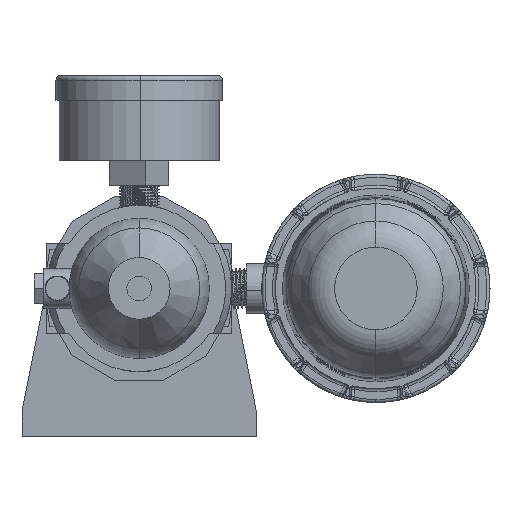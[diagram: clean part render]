
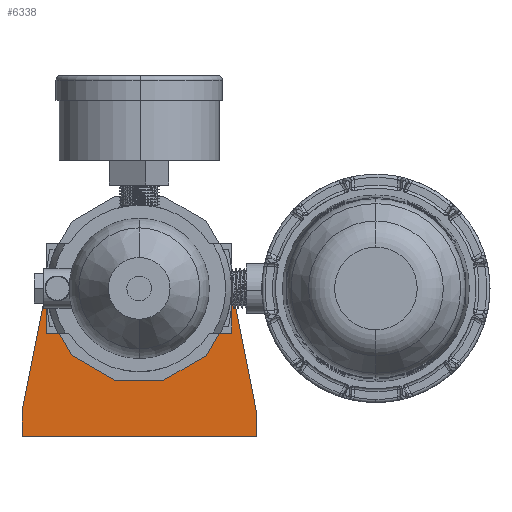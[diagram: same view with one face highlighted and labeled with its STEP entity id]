
A CAD part, front view. The second image highlights one B-rep face of the part: STEP entity #6338.
In plain terms, the highlighted planar face has unit normal (0, -1, 0).
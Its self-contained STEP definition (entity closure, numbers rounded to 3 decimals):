
#630 = LINE ( 'NONE', #55711, #48479 ) ;
#868 = VERTEX_POINT ( 'NONE', #51446 ) ;
#1215 = DIRECTION ( 'NONE',  ( 0.194, 0., -0.981 ) ) ;
#2510 = ORIENTED_EDGE ( 'NONE', *, *, #56997, .F. ) ;
#2633 = ORIENTED_EDGE ( 'NONE', *, *, #5367, .F. ) ;
#4028 = VECTOR ( 'NONE', #1215, 1000. ) ;
#4329 = ORIENTED_EDGE ( 'NONE', *, *, #29417, .T. ) ;
#4472 = CIRCLE ( 'NONE', #45150, 24. ) ;
#5367 = EDGE_CURVE ( 'NONE', #24359, #20689, #13827, .T. ) ;
#6221 = CARTESIAN_POINT ( 'NONE',  ( -38., 0., -40. ) ) ;
#6338 = ADVANCED_FACE ( 'NONE', ( #6813, #14398 ), #15729, .F. ) ;
#6813 = FACE_BOUND ( 'NONE', #26232, .T. ) ;
#6897 = CARTESIAN_POINT ( 'NONE',  ( 0., 0., 0. ) ) ;
#9942 = AXIS2_PLACEMENT_3D ( 'NONE', #51609, #55897, #11652 ) ;
#10686 = VECTOR ( 'NONE', #15971, 1000. ) ;
#11652 = DIRECTION ( 'NONE',  ( 0., 0., 1. ) ) ;
#13827 = LINE ( 'NONE', #48228, #47065 ) ;
#14398 = FACE_OUTER_BOUND ( 'NONE', #38464, .T. ) ;
#15611 = EDGE_CURVE ( 'NONE', #55009, #37462, #30935, .T. ) ;
#15729 = PLANE ( 'NONE',  #9942 ) ;
#15740 = AXIS2_PLACEMENT_3D ( 'NONE', #49515, #40570, #19031 ) ;
#15971 = DIRECTION ( 'NONE',  ( 0., 0., -1. ) ) ;
#19031 = DIRECTION ( 'NONE',  ( 0., 0., 1. ) ) ;
#19550 = CARTESIAN_POINT ( 'NONE',  ( 38., 0., -48. ) ) ;
#20282 = CARTESIAN_POINT ( 'NONE',  ( -38., 0., -48. ) ) ;
#20689 = VERTEX_POINT ( 'NONE', #30739 ) ;
#20895 = EDGE_CURVE ( 'NONE', #20689, #53950, #44413, .T. ) ;
#23505 = DIRECTION ( 'NONE',  ( 0., 0., 1. ) ) ;
#23872 = DIRECTION ( 'NONE',  ( 0., 1., 0. ) ) ;
#24359 = VERTEX_POINT ( 'NONE', #6221 ) ;
#26232 = EDGE_LOOP ( 'NONE', ( #35538, #4329 ) ) ;
#26799 = CARTESIAN_POINT ( 'NONE',  ( 0., 0., 24. ) ) ;
#28002 = CARTESIAN_POINT ( 'NONE',  ( 0., 0., 0. ) ) ;
#28462 = CIRCLE ( 'NONE', #15740, 24. ) ;
#29141 = CARTESIAN_POINT ( 'NONE',  ( 38., 0., -48. ) ) ;
#29417 = EDGE_CURVE ( 'NONE', #868, #36528, #4472, .T. ) ;
#30739 = CARTESIAN_POINT ( 'NONE',  ( -28.937, 0., 5.734 ) ) ;
#30935 = LINE ( 'NONE', #51347, #41350 ) ;
#34437 = DIRECTION ( 'NONE',  ( -1., 0., 0. ) ) ;
#35050 = EDGE_CURVE ( 'NONE', #53950, #47494, #47688, .T. ) ;
#35538 = ORIENTED_EDGE ( 'NONE', *, *, #41844, .T. ) ;
#36528 = VERTEX_POINT ( 'NONE', #26799 ) ;
#37462 = VERTEX_POINT ( 'NONE', #20282 ) ;
#37850 = DIRECTION ( 'NONE',  ( 0., 0., 1. ) ) ;
#38230 = EDGE_CURVE ( 'NONE', #47494, #55009, #38413, .T. ) ;
#38242 = ORIENTED_EDGE ( 'NONE', *, *, #35050, .F. ) ;
#38395 = DIRECTION ( 'NONE',  ( 0., 0., 1. ) ) ;
#38413 = LINE ( 'NONE', #29141, #10686 ) ;
#38464 = EDGE_LOOP ( 'NONE', ( #2633, #2510, #40357, #49393, #38242, #41339 ) ) ;
#40357 = ORIENTED_EDGE ( 'NONE', *, *, #15611, .F. ) ;
#40570 = DIRECTION ( 'NONE',  ( 0., 1., 0. ) ) ;
#41339 = ORIENTED_EDGE ( 'NONE', *, *, #20895, .F. ) ;
#41350 = VECTOR ( 'NONE', #34437, 1000. ) ;
#41391 = DIRECTION ( 'NONE',  ( 0., 1., 0. ) ) ;
#41844 = EDGE_CURVE ( 'NONE', #36528, #868, #28462, .T. ) ;
#42535 = CARTESIAN_POINT ( 'NONE',  ( 38., 0., -40. ) ) ;
#44413 = CIRCLE ( 'NONE', #53416, 29.5 ) ;
#45150 = AXIS2_PLACEMENT_3D ( 'NONE', #6897, #23872, #37850 ) ;
#47065 = VECTOR ( 'NONE', #52897, 1000. ) ;
#47494 = VERTEX_POINT ( 'NONE', #42535 ) ;
#47688 = LINE ( 'NONE', #55054, #4028 ) ;
#48228 = CARTESIAN_POINT ( 'NONE',  ( -38., 0., -40. ) ) ;
#48479 = VECTOR ( 'NONE', #38395, 1000. ) ;
#49393 = ORIENTED_EDGE ( 'NONE', *, *, #38230, .F. ) ;
#49515 = CARTESIAN_POINT ( 'NONE',  ( 0., 0., 0. ) ) ;
#51347 = CARTESIAN_POINT ( 'NONE',  ( -38., 0., -48. ) ) ;
#51446 = CARTESIAN_POINT ( 'NONE',  ( 0., 0., -24. ) ) ;
#51609 = CARTESIAN_POINT ( 'NONE',  ( 0., 0., 0. ) ) ;
#52897 = DIRECTION ( 'NONE',  ( 0.194, 0., 0.981 ) ) ;
#53416 = AXIS2_PLACEMENT_3D ( 'NONE', #28002, #41391, #23505 ) ;
#53950 = VERTEX_POINT ( 'NONE', #56670 ) ;
#55009 = VERTEX_POINT ( 'NONE', #19550 ) ;
#55054 = CARTESIAN_POINT ( 'NONE',  ( 38., 0., -40. ) ) ;
#55711 = CARTESIAN_POINT ( 'NONE',  ( -38., 0., -48. ) ) ;
#55897 = DIRECTION ( 'NONE',  ( 0., 1., 0. ) ) ;
#56670 = CARTESIAN_POINT ( 'NONE',  ( 28.937, 0., 5.734 ) ) ;
#56997 = EDGE_CURVE ( 'NONE', #37462, #24359, #630, .T. ) ;
